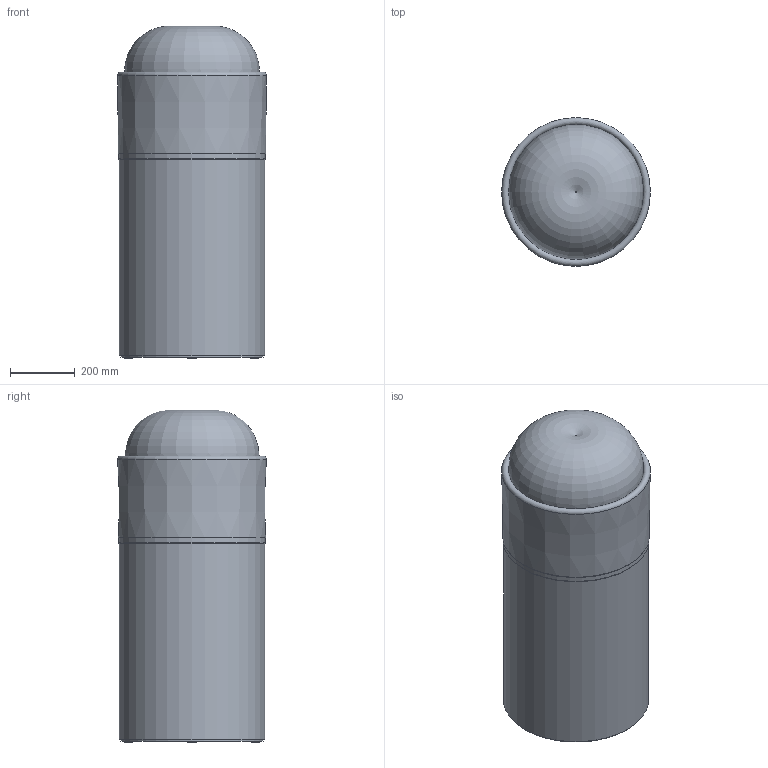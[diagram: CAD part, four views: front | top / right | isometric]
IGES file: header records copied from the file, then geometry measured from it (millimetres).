
Start section: Data from Parasolid IGES Translator 19.0.9, Copyright(c) 2006 Siemens PL M Software. All Rights Reserved.
Global section: file name: noorth-lavabi | washbasin-H 88 D 45 W 45_2016.igs; native system: By Siemens PLM Incorporated; preprocessor: XPlus GENERIC/IGES 19.0.9; author: Noname; organization: Noname; date: 20200511.115733; units: metre
Bounding box: 458 x 458 x 1021.74 mm (x, y, z)
Volume: 48767751.5 mm3; surface area: 3585454.2 mm2
Topology: 13 solids, 13 shells, 96 faces, 150 edges, 88 vertices
Faces by surface type: plane 34, cylinder 26, cone 21, torus 15
Full cylindrical faces by diameter (mm): 4.122 x2, 25 x4, 34.122 x2, 46.08 x1, 46.122 x1, 64 x1, 64.122 x1, 250 x1, 328.382 x1, 353 x1, 417 x1, 429 x1, 429.156 x1, 437 x3, 437.156 x1, 447 x3, 451 x1
